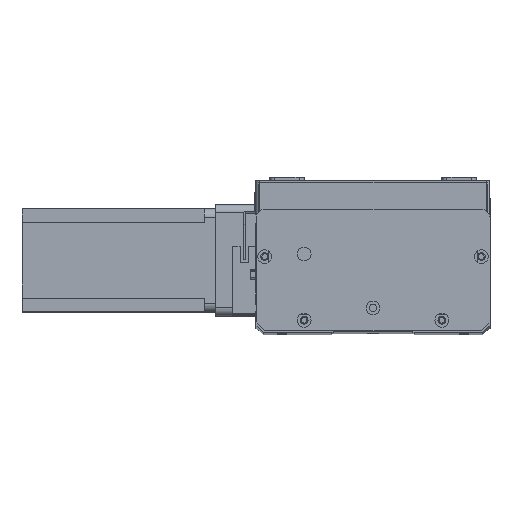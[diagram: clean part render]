
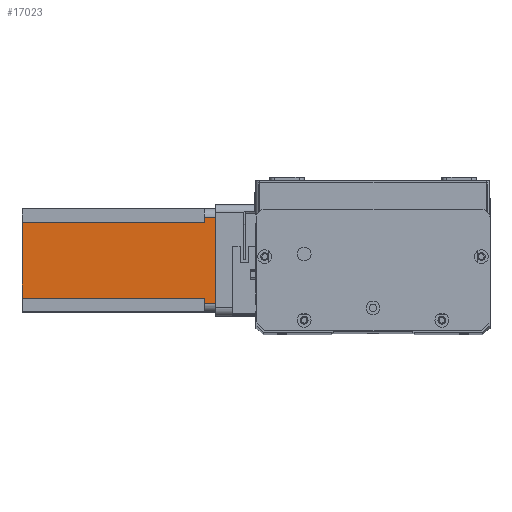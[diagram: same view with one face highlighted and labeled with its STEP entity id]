
A CAD part, top view. The second image highlights one B-rep face of the part: STEP entity #17023.
In plain terms, the highlighted planar face has unit normal (0, 0, 1) as drawn and (0, -1, 0) by its records, which use the part's own axes.
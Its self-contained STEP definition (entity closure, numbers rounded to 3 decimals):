
#49 = EDGE_CURVE ( 'NONE', #9653, #1699, #14065, .T. ) ;
#210 = LINE ( 'NONE', #9706, #19877 ) ;
#815 = ORIENTED_EDGE ( 'NONE', *, *, #49, .F. ) ;
#1673 = VERTEX_POINT ( 'NONE', #5807 ) ;
#1699 = VERTEX_POINT ( 'NONE', #11715 ) ;
#2247 = VECTOR ( 'NONE', #3101, 1000. ) ;
#2342 = EDGE_CURVE ( 'NONE', #11198, #9653, #210, .T. ) ;
#2495 = CARTESIAN_POINT ( 'NONE',  ( 52., 0., -6.5 ) ) ;
#2736 = CARTESIAN_POINT ( 'NONE',  ( 52., 0., -112.5 ) ) ;
#3101 = DIRECTION ( 'NONE',  ( 0., 0., -1. ) ) ;
#3148 = EDGE_CURVE ( 'NONE', #6500, #1673, #24759, .T. ) ;
#4403 = CARTESIAN_POINT ( 'NONE',  ( 5., 0., 0. ) ) ;
#5219 = EDGE_LOOP ( 'NONE', ( #14177, #10623, #22643, #11702, #815, #10148, #13176, #6456 ) ) ;
#5672 = LINE ( 'NONE', #10559, #20746 ) ;
#5760 = DIRECTION ( 'NONE',  ( 0., 0., 1. ) ) ;
#5807 = CARTESIAN_POINT ( 'NONE',  ( 52., 0., -112.5 ) ) ;
#6000 = VERTEX_POINT ( 'NONE', #10752 ) ;
#6456 = ORIENTED_EDGE ( 'NONE', *, *, #3148, .F. ) ;
#6500 = VERTEX_POINT ( 'NONE', #2495 ) ;
#6581 = EDGE_CURVE ( 'NONE', #11198, #1673, #5672, .T. ) ;
#6767 = DIRECTION ( 'NONE',  ( 0., -1., 0. ) ) ;
#7456 = VECTOR ( 'NONE', #21726, 1000. ) ;
#7757 = DIRECTION ( 'NONE',  ( 1., 0., 0. ) ) ;
#7980 = CARTESIAN_POINT ( 'NONE',  ( 55., 0., -112.5 ) ) ;
#8327 = CARTESIAN_POINT ( 'NONE',  ( 52., 0., -6.5 ) ) ;
#8846 = VECTOR ( 'NONE', #18184, 1000. ) ;
#9379 = EDGE_CURVE ( 'NONE', #6000, #18334, #13286, .T. ) ;
#9653 = VERTEX_POINT ( 'NONE', #14895 ) ;
#9706 = CARTESIAN_POINT ( 'NONE',  ( 8., 0., -112.5 ) ) ;
#10148 = ORIENTED_EDGE ( 'NONE', *, *, #2342, .F. ) ;
#10559 = CARTESIAN_POINT ( 'NONE',  ( 0., 0., -112.5 ) ) ;
#10623 = ORIENTED_EDGE ( 'NONE', *, *, #9379, .T. ) ;
#10703 = VECTOR ( 'NONE', #7757, 1000. ) ;
#10752 = CARTESIAN_POINT ( 'NONE',  ( 55., 0., -6.5 ) ) ;
#11198 = VERTEX_POINT ( 'NONE', #19726 ) ;
#11702 = ORIENTED_EDGE ( 'NONE', *, *, #19796, .T. ) ;
#11713 = AXIS2_PLACEMENT_3D ( 'NONE', #18542, #6767, #20534 ) ;
#11715 = CARTESIAN_POINT ( 'NONE',  ( 5., 0., -6.5 ) ) ;
#12278 = VERTEX_POINT ( 'NONE', #4403 ) ;
#12607 = PLANE ( 'NONE',  #11713 ) ;
#13176 = ORIENTED_EDGE ( 'NONE', *, *, #6581, .T. ) ;
#13286 = LINE ( 'NONE', #7980, #7456 ) ;
#14065 = LINE ( 'NONE', #23939, #8846 ) ;
#14177 = ORIENTED_EDGE ( 'NONE', *, *, #15170, .T. ) ;
#14895 = CARTESIAN_POINT ( 'NONE',  ( 8., 0., -6.5 ) ) ;
#15170 = EDGE_CURVE ( 'NONE', #6500, #6000, #16975, .T. ) ;
#16975 = LINE ( 'NONE', #8327, #21590 ) ;
#17023 = ADVANCED_FACE ( 'NONE', ( #20266 ), #12607, .T. ) ;
#18184 = DIRECTION ( 'NONE',  ( -1., 0., 0. ) ) ;
#18334 = VERTEX_POINT ( 'NONE', #24500 ) ;
#18542 = CARTESIAN_POINT ( 'NONE',  ( 0., 0., -112.5 ) ) ;
#19531 = VECTOR ( 'NONE', #22382, 1000. ) ;
#19726 = CARTESIAN_POINT ( 'NONE',  ( 8., 0., -112.5 ) ) ;
#19796 = EDGE_CURVE ( 'NONE', #12278, #1699, #23151, .T. ) ;
#19877 = VECTOR ( 'NONE', #5760, 1000. ) ;
#20266 = FACE_OUTER_BOUND ( 'NONE', #5219, .T. ) ;
#20534 = DIRECTION ( 'NONE',  ( 0., 0., -1. ) ) ;
#20746 = VECTOR ( 'NONE', #22237, 1000. ) ;
#21501 = CARTESIAN_POINT ( 'NONE',  ( 0., 0., 0. ) ) ;
#21590 = VECTOR ( 'NONE', #22075, 1000. ) ;
#21726 = DIRECTION ( 'NONE',  ( 0., 0., 1. ) ) ;
#22075 = DIRECTION ( 'NONE',  ( 1., 0., 0. ) ) ;
#22237 = DIRECTION ( 'NONE',  ( 1., 0., 0. ) ) ;
#22376 = LINE ( 'NONE', #21501, #10703 ) ;
#22382 = DIRECTION ( 'NONE',  ( 0., 0., -1. ) ) ;
#22643 = ORIENTED_EDGE ( 'NONE', *, *, #24841, .F. ) ;
#23151 = LINE ( 'NONE', #24646, #2247 ) ;
#23939 = CARTESIAN_POINT ( 'NONE',  ( 8., 0., -6.5 ) ) ;
#24500 = CARTESIAN_POINT ( 'NONE',  ( 55., 0., 0. ) ) ;
#24646 = CARTESIAN_POINT ( 'NONE',  ( 5., 0., -112.5 ) ) ;
#24759 = LINE ( 'NONE', #2736, #19531 ) ;
#24841 = EDGE_CURVE ( 'NONE', #12278, #18334, #22376, .T. ) ;
